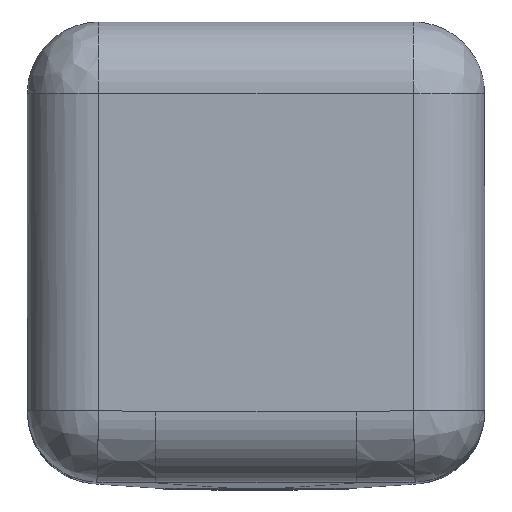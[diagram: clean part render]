
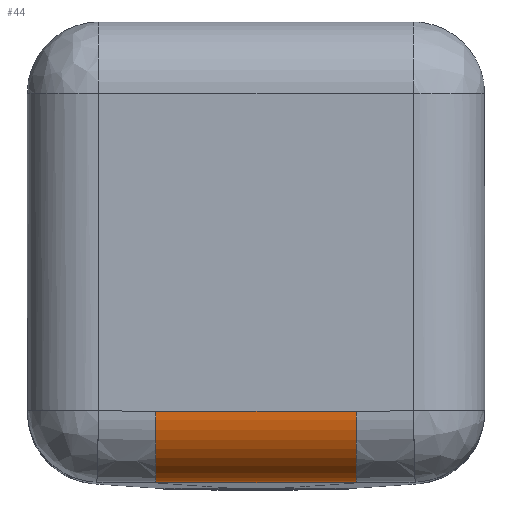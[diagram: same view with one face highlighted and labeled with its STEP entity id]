
A CAD part, left-side view. The second image highlights one B-rep face of the part: STEP entity #44.
In plain terms, the highlighted free-form (B-spline) face has degree [2, 1] with [9, 2] control points.
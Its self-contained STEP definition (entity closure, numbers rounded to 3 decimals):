
#44=ADVANCED_FACE('',(#179),#3907,.T.);
#179=FACE_OUTER_BOUND('',#315,.T.);
#315=EDGE_LOOP('',(#571,#572,#573,#574));
#571=ORIENTED_EDGE('',*,*,#3300,.F.);
#572=ORIENTED_EDGE('',*,*,#3263,.F.);
#573=ORIENTED_EDGE('',*,*,#3301,.T.);
#574=ORIENTED_EDGE('',*,*,#3215,.F.);
#1047=PCURVE('',#3867,#1639);
#1098=PCURVE('',#3877,#1690);
#1161=PCURVE('',#3906,#1753);
#1163=PCURVE('',#3907,#1755);
#1164=PCURVE('',#3907,#1756);
#1165=PCURVE('',#3907,#1757);
#1166=PCURVE('',#3907,#1758);
#1173=PCURVE('',#3910,#1765);
#1639=DEFINITIONAL_REPRESENTATION('',(#2235),#13232);
#1690=DEFINITIONAL_REPRESENTATION('',(#2310),#13232);
#1753=DEFINITIONAL_REPRESENTATION('',(#2387),#13232);
#1755=DEFINITIONAL_REPRESENTATION('',(#2389),#13232);
#1756=DEFINITIONAL_REPRESENTATION('',(#2390),#13232);
#1757=DEFINITIONAL_REPRESENTATION('',(#2391),#13232);
#1758=DEFINITIONAL_REPRESENTATION('',(#2392),#13232);
#1765=DEFINITIONAL_REPRESENTATION('',(#2400),#13232);
#2234=B_SPLINE_CURVE_WITH_KNOTS('',1,(#7992,#7993),.UNSPECIFIED.,.F.,.F.,
(2,2),(0.,140.165),.UNSPECIFIED.);
#2235=B_SPLINE_CURVE_WITH_KNOTS('',1,(#7994,#7995),.UNSPECIFIED.,.F.,.F.,
(2,2),(0.,140.165),.UNSPECIFIED.);
#2309=B_SPLINE_CURVE_WITH_KNOTS('',1,(#8238,#8239),.UNSPECIFIED.,.F.,.F.,
(2,2),(0.,140.165),.UNSPECIFIED.);
#2310=B_SPLINE_CURVE_WITH_KNOTS('',1,(#8240,#8241),.UNSPECIFIED.,.F.,.F.,
(2,2),(0.,140.165),.UNSPECIFIED.);
#2387=B_SPLINE_CURVE_WITH_KNOTS('',1,(#9011,#9012),.UNSPECIFIED.,.F.,.F.,
(2,2),(0.,75.942),.UNSPECIFIED.);
#2389=B_SPLINE_CURVE_WITH_KNOTS('',1,(#9015,#9016),.UNSPECIFIED.,.F.,.F.,
(2,2),(0.,75.942),.UNSPECIFIED.);
#2390=B_SPLINE_CURVE_WITH_KNOTS('',1,(#9017,#9018),.UNSPECIFIED.,.F.,.F.,
(2,2),(0.,140.165),.UNSPECIFIED.);
#2391=B_SPLINE_CURVE_WITH_KNOTS('',1,(#9022,#9023),.UNSPECIFIED.,.F.,.F.,
(2,2),(0.,75.942),.UNSPECIFIED.);
#2392=B_SPLINE_CURVE_WITH_KNOTS('',1,(#9024,#9025),.UNSPECIFIED.,.F.,.F.,
(2,2),(0.,140.165),.UNSPECIFIED.);
#2400=B_SPLINE_CURVE_WITH_KNOTS('',1,(#9392,#9393),.UNSPECIFIED.,.F.,.F.,
(2,2),(0.,75.942),.UNSPECIFIED.);
#2911=SURFACE_CURVE('',#2234,(#1047,#1166),.PCURVE_S1.);
#2959=SURFACE_CURVE('',#2309,(#1098,#1164),.PCURVE_S1.);
#2996=SURFACE_CURVE('',#3562,(#1161,#1163),.PCURVE_S1.);
#2997=SURFACE_CURVE('',#3563,(#1165,#1173),.PCURVE_S1.);
#3215=EDGE_CURVE('',#3731,#3730,#2911,.T.);
#3263=EDGE_CURVE('',#3779,#3777,#2959,.T.);
#3300=EDGE_CURVE('',#3777,#3731,#2996,.T.);
#3301=EDGE_CURVE('',#3779,#3730,#2997,.T.);
#3562=(
BOUNDED_CURVE()
B_SPLINE_CURVE(2,(#9008,#9009,#9010),.UNSPECIFIED.,.F.,.F.)
B_SPLINE_CURVE_WITH_KNOTS((3,3),(0.,75.942),.UNSPECIFIED.)
CURVE()
GEOMETRIC_REPRESENTATION_ITEM()
RATIONAL_B_SPLINE_CURVE((1.,0.725,1.))
REPRESENTATION_ITEM('')
);
#3563=(
BOUNDED_CURVE()
B_SPLINE_CURVE(2,(#9019,#9020,#9021),.UNSPECIFIED.,.F.,.F.)
B_SPLINE_CURVE_WITH_KNOTS((3,3),(0.,75.942),.UNSPECIFIED.)
CURVE()
GEOMETRIC_REPRESENTATION_ITEM()
RATIONAL_B_SPLINE_CURVE((1.,0.725,1.))
REPRESENTATION_ITEM('')
);
#3730=VERTEX_POINT('',#7031);
#3731=VERTEX_POINT('',#7032);
#3777=VERTEX_POINT('',#7078);
#3779=VERTEX_POINT('',#7080);
#3867=B_SPLINE_SURFACE_WITH_KNOTS('',1,1,((#4211,#4212),(#4213,#4214)),
 .UNSPECIFIED.,.F.,.F.,.F.,(2,2),(2,2),(-292.253,-25.214),
(-292.,-28.),.UNSPECIFIED.);
#3877=B_SPLINE_SURFACE_WITH_KNOTS('',1,1,((#4251,#4252),(#4253,#4254)),
 .UNSPECIFIED.,.F.,.F.,.F.,(2,2),(2,2),(201.125,369.324),
(39.792,131.895),.UNSPECIFIED.);
#3906=(
BOUNDED_SURFACE()
B_SPLINE_SURFACE(3,2,((#4377,#4378,#4379),(#4380,#4381,#4382),(#4383,#4384,
#4385),(#4386,#4387,#4388)),.UNSPECIFIED.,.F.,.F.,.F.)
B_SPLINE_SURFACE_WITH_KNOTS((4,4),(3,3),(0.,41.268),(0.,96.878),
 .UNSPECIFIED.)
GEOMETRIC_REPRESENTATION_ITEM()
RATIONAL_B_SPLINE_SURFACE(((1.,0.725,1.),(1.,0.723,
1.),(1.,0.721,1.),(1.,0.718,1.)))
REPRESENTATION_ITEM('')
SURFACE()
);
#3907=(
BOUNDED_SURFACE()
B_SPLINE_SURFACE(2,1,((#4389,#4390),(#4391,#4392),(#4393,#4394),(#4395,
#4396),(#4397,#4398),(#4399,#4400),(#4401,#4402),(#4403,#4404),(#4405,#4406)),
 .UNSPECIFIED.,.T.,.F.,.F.)
B_SPLINE_SURFACE_WITH_KNOTS((3,2,2,2,3),(2,2),(0.,78.54,157.08,
235.619,314.159),(0.,168.199),.UNSPECIFIED.)
GEOMETRIC_REPRESENTATION_ITEM()
RATIONAL_B_SPLINE_SURFACE(((1.,1.),(0.707,0.707),
(1.,1.),(0.707,0.707),(1.,1.),(0.707,
0.707),(1.,1.),(0.707,0.707),(1.,1.)))
REPRESENTATION_ITEM('')
SURFACE()
);
#3910=(
BOUNDED_SURFACE()
B_SPLINE_SURFACE(3,2,((#4497,#4498,#4499),(#4500,#4501,#4502),(#4503,#4504,
#4505),(#4506,#4507,#4508)),.UNSPECIFIED.,.F.,.F.,.F.)
B_SPLINE_SURFACE_WITH_KNOTS((4,4),(3,3),(0.,41.268),(0.,
96.878),.UNSPECIFIED.)
GEOMETRIC_REPRESENTATION_ITEM()
RATIONAL_B_SPLINE_SURFACE(((1.,0.718,1.),(1.,0.721,
1.),(1.,0.723,1.),(1.,0.725,1.)))
REPRESENTATION_ITEM('')
SURFACE()
);
#4211=CARTESIAN_POINT('',(-225.,132.,299.703));
#4212=CARTESIAN_POINT('',(-225.,-132.,299.703));
#4213=CARTESIAN_POINT('',(-225.,132.,32.664));
#4214=CARTESIAN_POINT('',(-225.,-132.,32.664));
#4251=CARTESIAN_POINT('',(-185.261,-84.099,5.383));
#4252=CARTESIAN_POINT('',(-93.283,-84.099,0.6));
#4253=CARTESIAN_POINT('',(-185.261,84.099,5.383));
#4254=CARTESIAN_POINT('',(-93.283,84.099,0.6));
#4377=CARTESIAN_POINT('',(-225.,70.083,54.917));
#4378=CARTESIAN_POINT('',(-225.,70.083,7.449));
#4379=CARTESIAN_POINT('',(-177.596,70.083,4.984));
#4380=CARTESIAN_POINT('',(-225.,83.384,54.917));
#4381=CARTESIAN_POINT('',(-225.,83.85,7.128));
#4382=CARTESIAN_POINT('',(-177.26,83.828,4.967));
#4383=CARTESIAN_POINT('',(-225.,96.692,55.094));
#4384=CARTESIAN_POINT('',(-225.,97.59,6.988));
#4385=CARTESIAN_POINT('',(-176.923,97.581,5.136));
#4386=CARTESIAN_POINT('',(-225.,110.,55.449));
#4387=CARTESIAN_POINT('',(-225.,111.291,7.027));
#4388=CARTESIAN_POINT('',(-176.585,111.332,5.492));
#4389=CARTESIAN_POINT('',(-125.,-84.099,54.917));
#4390=CARTESIAN_POINT('',(-125.,84.099,54.917));
#4391=CARTESIAN_POINT('',(-125.,-84.099,4.917));
#4392=CARTESIAN_POINT('',(-125.,84.099,4.917));
#4393=CARTESIAN_POINT('',(-175.,-84.099,4.917));
#4394=CARTESIAN_POINT('',(-175.,84.099,4.917));
#4395=CARTESIAN_POINT('',(-225.,-84.099,4.917));
#4396=CARTESIAN_POINT('',(-225.,84.099,4.917));
#4397=CARTESIAN_POINT('',(-225.,-84.099,54.917));
#4398=CARTESIAN_POINT('',(-225.,84.099,54.917));
#4399=CARTESIAN_POINT('',(-225.,-84.099,104.917));
#4400=CARTESIAN_POINT('',(-225.,84.099,104.917));
#4401=CARTESIAN_POINT('',(-175.,-84.099,104.917));
#4402=CARTESIAN_POINT('',(-175.,84.099,104.917));
#4403=CARTESIAN_POINT('',(-125.,-84.099,104.917));
#4404=CARTESIAN_POINT('',(-125.,84.099,104.917));
#4405=CARTESIAN_POINT('',(-125.,-84.099,54.917));
#4406=CARTESIAN_POINT('',(-125.,84.099,54.917));
#4497=CARTESIAN_POINT('',(-225.,-110.,55.449));
#4498=CARTESIAN_POINT('',(-225.,-111.291,7.027));
#4499=CARTESIAN_POINT('',(-176.585,-111.332,5.492));
#4500=CARTESIAN_POINT('',(-225.,-96.692,55.094));
#4501=CARTESIAN_POINT('',(-225.,-97.59,6.988));
#4502=CARTESIAN_POINT('',(-176.923,-97.581,5.136));
#4503=CARTESIAN_POINT('',(-225.,-83.384,54.917));
#4504=CARTESIAN_POINT('',(-225.,-83.85,7.128));
#4505=CARTESIAN_POINT('',(-177.26,-83.828,4.967));
#4506=CARTESIAN_POINT('',(-225.,-70.083,54.917));
#4507=CARTESIAN_POINT('',(-225.,-70.083,7.449));
#4508=CARTESIAN_POINT('',(-177.596,-70.083,4.984));
#7031=CARTESIAN_POINT('',(-225.,-70.083,54.917));
#7032=CARTESIAN_POINT('',(-225.,70.083,54.917));
#7078=CARTESIAN_POINT('',(-177.596,70.083,4.984));
#7080=CARTESIAN_POINT('',(-177.596,-70.083,4.984));
#7992=CARTESIAN_POINT('',(-225.,70.083,54.917));
#7993=CARTESIAN_POINT('',(-225.,-70.083,54.917));
#7994=CARTESIAN_POINT('',(-47.468,-230.083));
#7995=CARTESIAN_POINT('',(-47.468,-89.917));
#8238=CARTESIAN_POINT('',(-177.596,-70.083,4.984));
#8239=CARTESIAN_POINT('',(-177.596,70.083,4.984));
#8240=CARTESIAN_POINT('',(215.142,47.468));
#8241=CARTESIAN_POINT('',(355.308,47.468));
#9008=CARTESIAN_POINT('',(-177.596,70.083,4.984));
#9009=CARTESIAN_POINT('',(-225.,70.083,7.449));
#9010=CARTESIAN_POINT('',(-225.,70.083,54.917));
#9011=CARTESIAN_POINT('',(0.,96.878));
#9012=CARTESIAN_POINT('',(0.,0.));
#9015=CARTESIAN_POINT('',(81.395,154.182));
#9016=CARTESIAN_POINT('',(157.08,154.182));
#9017=CARTESIAN_POINT('',(81.395,14.017));
#9018=CARTESIAN_POINT('',(81.395,154.182));
#9019=CARTESIAN_POINT('',(-177.596,-70.083,4.984));
#9020=CARTESIAN_POINT('',(-225.,-70.083,7.449));
#9021=CARTESIAN_POINT('',(-225.,-70.083,54.917));
#9022=CARTESIAN_POINT('',(81.395,14.017));
#9023=CARTESIAN_POINT('',(157.08,14.017));
#9024=CARTESIAN_POINT('',(157.08,154.182));
#9025=CARTESIAN_POINT('',(157.08,14.017));
#9392=CARTESIAN_POINT('',(41.268,96.878));
#9393=CARTESIAN_POINT('',(41.268,0.));
#13232=(
GEOMETRIC_REPRESENTATION_CONTEXT(2)
PARAMETRIC_REPRESENTATION_CONTEXT()
REPRESENTATION_CONTEXT('pspace','')
);
